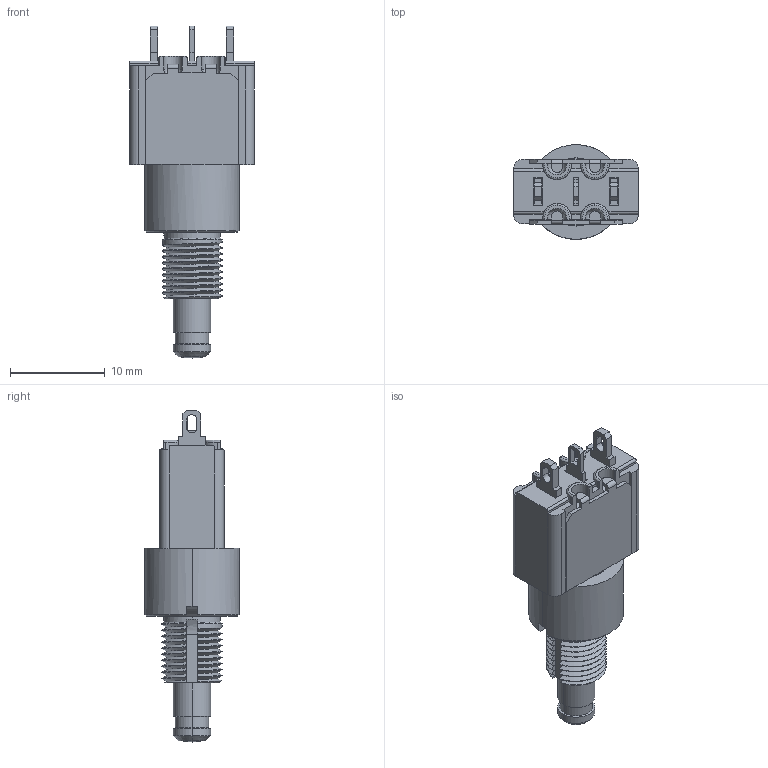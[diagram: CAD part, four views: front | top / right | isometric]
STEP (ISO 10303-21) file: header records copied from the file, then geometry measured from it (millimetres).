
FILE_DESCRIPTION(('STEP AP242'),'1');
FILE_NAME('8632a.stp','2025-04-18T09:32:42',('TraceParts'),('TraceParts S.A.'),'Spatial InterOp 3D',' ',' ');
FILE_SCHEMA(('AP242_MANAGED_MODEL_BASED_3D_ENGINEERING_MIM_LF {1 0 10303 442 1 1 4}'));
Length unit declared in the file: millimetre
Products named in the file (1): 8632a_1
Bounding box: 13.2 x 10 x 35.06 mm (x, y, z)
Volume: 1113.3 mm3; surface area: 2495.5 mm2
Topology: 3 solids, 3 shells, 521 faces, 1504 edges, 957 vertices
Faces by surface type: plane 294, cylinder 145, bspline 36, cone 28, sphere 10, torus 8
Entity records: 23285 total; most frequent: CARTESIAN_POINT 9829, ORIENTED_EDGE 2992, DIRECTION 2594, EDGE_CURVE 1496, LINE 970, VECTOR 970, VERTEX_POINT 957, AXIS2_PLACEMENT_3D 812
